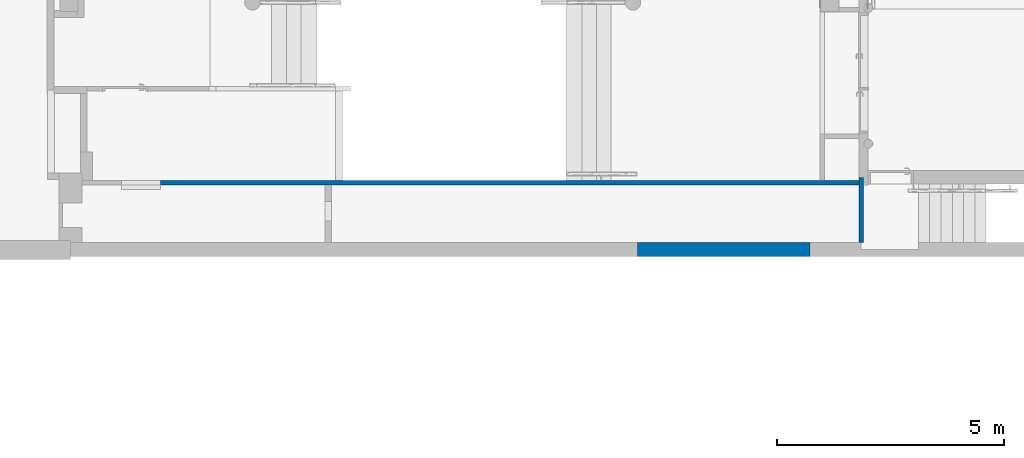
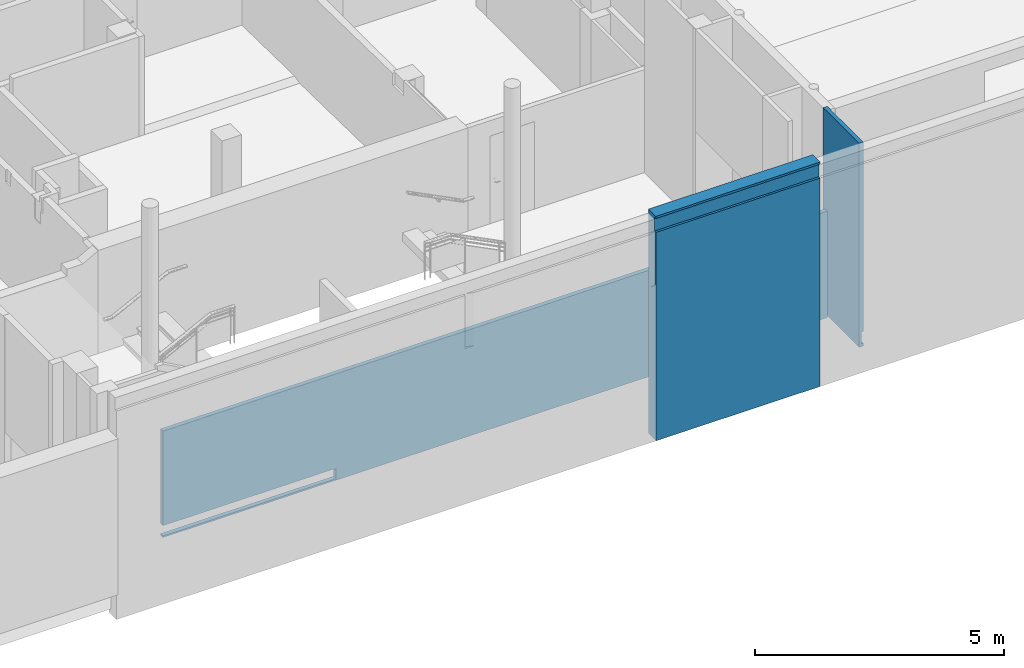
# One storey, part 21 of 39: 3 walls.
"""IFC4 building model written with IfcOpenShell, lengths in metres."""

import ifcopenshell
import ifcopenshell.guid

model = None  # the IFC model being written
_history = None  # IfcOwnerHistory: only IFC2X3 demands one
_inside = {}  # id of a spatial element -> (the spatial element, [elements in it])
_under = {}  # id of a project, library or spatial element -> (it, [spatial elements below it])
_declared = {}  # id of a project -> (the project, [libraries it declares])
_typed = {}  # id of a type object -> (the type object, [elements of that type])
_made_of = {}  # id of a material, layer set ... -> (it, [elements and type objects made of it])


def new_model(schema):
    """Start an empty IFC model of exactly this schema.

    Asked for "IFC4X3", IfcOpenShell would pick the latest addendum, in which some entities
    have other attributes; the version numbers below select the first issue.
    IFC2X3 requires an IfcOwnerHistory on every rooted entity: one is made here for all.
    """
    global model, _history
    if schema == "IFC4X3":
        model = ifcopenshell.file(schema_version=(4, 3, 0, 0))
    else:
        model = ifcopenshell.file(schema=schema)
    _inside.clear()
    _under.clear()
    _declared.clear()
    _typed.clear()
    _made_of.clear()
    _history = None
    if model.schema == "IFC2X3":
        org = make("IfcOrganization", Name="unknown")
        user = make(
            "IfcPersonAndOrganization",
            ThePerson=make("IfcPerson", FamilyName="unknown"),
            TheOrganization=org,
        )
        app = make(
            "IfcApplication",
            ApplicationDeveloper=org,
            Version="unknown",
            ApplicationFullName="unknown",
            ApplicationIdentifier="unknown",
        )
        _history = make(
            "IfcOwnerHistory",
            OwningUser=user,
            OwningApplication=app,
            ChangeAction="ADDED",
            CreationDate=0,
        )
    return model


def make(cls, **values):
    """One entity of the class cls with the attributes given. An attribute that is None is left unset."""
    return model.create_entity(
        cls, **{name: value for name, value in values.items() if value is not None}
    )


def entity(cls, *values):
    """Any entity or typed value of the class cls, its attributes in the order of the schema. None: left unset."""
    e = model.create_entity(cls)
    for i, value in enumerate(values):
        if value is not None:
            e[i] = value
    return e


def rooted(cls, **values):
    """An entity with a GlobalId (a new one), such as an element, a storey or a relation."""
    return make(cls, GlobalId=ifcopenshell.guid.new(), OwnerHistory=_history, **values)


def si_unit(unit_type, name, prefix=None):
    """IfcSIUnit, for example si_unit("LENGTHUNIT", "METRE", prefix="MILLI")."""
    return make("IfcSIUnit", UnitType=unit_type, Prefix=prefix, Name=name)


def converted_unit(unit_type, name, factor, base, dimensions=None, offset=None):
    """IfcConversionBasedUnit, such as the inch: factor (a typed value) times the base unit."""
    return make(
        "IfcConversionBasedUnit"
        if offset is None
        else "IfcConversionBasedUnitWithOffset",
        ConversionOffset=offset,
        Dimensions=None
        if dimensions is None
        else entity("IfcDimensionalExponents", *dimensions),
        UnitType=unit_type,
        Name=name,
        ConversionFactor=make(
            "IfcMeasureWithUnit", ValueComponent=factor, UnitComponent=base
        ),
    )


def derived_unit(unit_type, elements):
    """IfcDerivedUnit: a product of units, each with its exponent."""
    return make(
        "IfcDerivedUnit",
        Elements=[
            make("IfcDerivedUnitElement", Unit=unit, Exponent=power)
            for unit, power in elements
        ],
        UnitType=unit_type,
    )


def assignment(units):
    """IfcUnitAssignment: the units of a project."""
    return None if units is None else make("IfcUnitAssignment", Units=units)


def point(xyz):
    """IfcCartesianPoint."""
    return None if xyz is None else make("IfcCartesianPoint", Coordinates=xyz)


def direction(xyz):
    """IfcDirection."""
    return None if xyz is None else make("IfcDirection", DirectionRatios=xyz)


def frame(location, z_axis=None, x_axis=None):
    """IfcAxis2Placement3D, a coordinate frame: its origin and axes. An axis left out is left unset."""
    return make(
        "IfcAxis2Placement3D",
        Location=point(location),
        Axis=direction(z_axis),
        RefDirection=direction(x_axis),
    )


def origin():
    """The frame at (0, 0, 0) with its axes left unset."""
    return frame((0.0, 0.0, 0.0))


def place(relative_to, where):
    """IfcLocalPlacement: puts the frame where relative to a parent placement (None: the world)."""
    return make(
        "IfcLocalPlacement", PlacementRelTo=relative_to, RelativePlacement=where
    )


def context(
    kind, dimensions, precision=None, world=None, true_north=None, identifier=None
):
    """IfcGeometricRepresentationContext, for example the 3D "Model" context."""
    return make(
        "IfcGeometricRepresentationContext",
        ContextIdentifier=identifier,
        ContextType=kind,
        CoordinateSpaceDimension=dimensions,
        Precision=precision,
        WorldCoordinateSystem=world,
        TrueNorth=true_north,
    )


def subcontext(parent, identifier, kind, view, scale=None):
    """IfcGeometricRepresentationSubContext, for example "Body" below "Model"."""
    return make(
        "IfcGeometricRepresentationSubContext",
        ContextIdentifier=identifier,
        ContextType=kind,
        ParentContext=parent,
        TargetScale=scale,
        TargetView=view,
    )


def project(units=None, contexts=None):
    """IfcProject with its units and contexts."""
    return rooted(
        "IfcProject",
        Name="project",
        RepresentationContexts=contexts,
        UnitsInContext=assignment(units),
    )


def spatial(cls, under=None, at=None, **own):
    """A site, building, storey or space (cls), placed at a placement, below another one or the project."""
    s = rooted(cls, ObjectPlacement=at, **own)
    if under is not None:
        _under.setdefault(under.id(), (under, []))[1].append(s)
    return s


def point_list(points):
    """IfcCartesianPointList2D or 3D."""
    cls = (
        "IfcCartesianPointList2D" if len(points[0]) == 2 else "IfcCartesianPointList3D"
    )
    return make(cls, CoordList=points)


def polygons(points, faces, closed=None, point_numbers=None):
    """IfcPolygonalFaceSet: a face is its outer loop, then its inner loops; points numbered from 1."""
    made = []
    for loops in faces:
        if len(loops) == 1:
            made.append(make("IfcIndexedPolygonalFace", CoordIndex=loops[0]))
        else:
            made.append(
                make(
                    "IfcIndexedPolygonalFaceWithVoids",
                    CoordIndex=loops[0],
                    InnerCoordIndices=loops[1:],
                )
            )
    return make(
        "IfcPolygonalFaceSet",
        Coordinates=point_list(points),
        Closed=closed,
        Faces=made,
        PnIndex=point_numbers,
    )


def shape(context_of_items, identifier, shape_type, items):
    """IfcShapeRepresentation: the items that make up one representation, for example the "Body"."""
    return make(
        "IfcShapeRepresentation",
        ContextOfItems=context_of_items,
        RepresentationIdentifier=identifier,
        RepresentationType=shape_type,
        Items=items,
    )


def material(Name=None, Category=None):
    """IfcMaterial."""
    return make("IfcMaterial", Name=Name, Category=Category)


def layer(
    of_material, thickness, ventilated=None, Name=None, Category=None, Priority=None
):
    """IfcMaterialLayer: one layer of a wall or slab, of a material (None: an air gap)."""
    return make(
        "IfcMaterialLayer",
        Material=of_material,
        LayerThickness=thickness,
        IsVentilated=ventilated,
        Name=Name,
        Category=Category,
        Priority=Priority,
    )


def layer_set(layers, Name=None):
    """IfcMaterialLayerSet."""
    return make("IfcMaterialLayerSet", MaterialLayers=layers, LayerSetName=Name)


def made_of(thing, what):
    """Note that an element or type object is made of a material, layer set ...; save() writes the relation."""
    if what is not None:
        _made_of.setdefault(what.id(), (what, []))[1].append(thing)
    return thing


def type_object(cls, material=None, **own):
    """A type object (cls), such as IfcWallType, which elements share."""
    return made_of(rooted(cls, **own), material)


def element(
    cls,
    number,
    at=None,
    inside=None,
    cuts=None,
    type_object=None,
    material=None,
    context=None,
    identifier="Body",
    shape_type=None,
    held_by="IfcProductDefinitionShape",
    body=None,
    shapes=None,
    **own,
):
    """One element of the class cls, such as IfcWall. Its Tag is "e" and its number.

    at: its placement. inside: the storey or other place that contains it. cuts: it is an
    opening in that element (IfcRelVoidsElement). A single representation is given by context,
    identifier, shape_type and body (its items); several are given by shapes. held_by: the class
    of the entity that holds the representations. save() writes the other relations.
    """
    e = rooted(cls, Tag="e%d" % number, ObjectPlacement=at, **own)
    if body is not None:
        shapes = [shape(context, identifier, shape_type, body)]
    if shapes is not None:
        e.Representation = make(held_by, Representations=shapes)
    if inside is not None:
        _inside.setdefault(inside.id(), (inside, []))[1].append(e)
    if cuts is not None:
        rooted(
            "IfcRelVoidsElement", RelatingBuildingElement=cuts, RelatedOpeningElement=e
        )
    if type_object is not None:
        _typed.setdefault(type_object.id(), (type_object, []))[1].append(e)
    return made_of(e, material)


def aggregate(whole, parts):
    """IfcRelAggregates: a whole, such as a stair, and the parts it consists of."""
    return rooted("IfcRelAggregates", RelatingObject=whole, RelatedObjects=parts)


def save(model, path):
    """Write the relations noted so far, then the file.

    IfcRelAggregates (storeys below a building ...), IfcRelContainedInSpatialStructure (elements
    in a storey), IfcRelDefinesByType, IfcRelAssociatesMaterial and IfcRelDeclares: one each for
    every whole, place, type object, material and project.
    """
    for whole, parts in _under.values():
        aggregate(whole, parts)
    for where, things in _inside.values():
        rooted(
            "IfcRelContainedInSpatialStructure",
            RelatedElements=things,
            RelatingStructure=where,
        )
    for kind, things in _typed.values():
        rooted("IfcRelDefinesByType", RelatedObjects=things, RelatingType=kind)
    for what, things in _made_of.values():
        rooted("IfcRelAssociatesMaterial", RelatedObjects=things, RelatingMaterial=what)
    for by, libraries in _declared.values():
        rooted("IfcRelDeclares", RelatingContext=by, RelatedDefinitions=libraries)
    model.write(path)


model = new_model("IFC4")

# Units and contexts
model_context = context("Model", 3, precision=1e-05, world=origin(), true_north=direction((6.12303176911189e-17, 1.0)))
body_context = subcontext(model_context, "Body", "Model", "MODEL_VIEW")
ifc_project = project(units=[si_unit("LENGTHUNIT", "METRE"), si_unit("AREAUNIT", "SQUARE_METRE"), si_unit("VOLUMEUNIT", "CUBIC_METRE"), converted_unit("PLANEANGLEUNIT", "DEGREE", entity("IfcRatioMeasure", 0.0174532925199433), si_unit("PLANEANGLEUNIT", "RADIAN"), dimensions=[0, 0, 0, 0, 0, 0, 0]), si_unit("MASSUNIT", "GRAM", prefix="KILO"), derived_unit("MASSDENSITYUNIT", [(si_unit("MASSUNIT", "GRAM", prefix="KILO"), 1), (si_unit("LENGTHUNIT", "METRE"), -3)]), derived_unit("MOMENTOFINERTIAUNIT", [(si_unit("LENGTHUNIT", "METRE"), 4)]), si_unit("TIMEUNIT", "SECOND"), si_unit("FREQUENCYUNIT", "HERTZ"), si_unit("THERMODYNAMICTEMPERATUREUNIT", "DEGREE_CELSIUS"), derived_unit("THERMALTRANSMITTANCEUNIT", [(si_unit("MASSUNIT", "GRAM", prefix="KILO"), 1), (si_unit("THERMODYNAMICTEMPERATUREUNIT", "KELVIN"), -1), (si_unit("TIMEUNIT", "SECOND"), -3)]), derived_unit("VOLUMETRICFLOWRATEUNIT", [(si_unit("LENGTHUNIT", "METRE"), 3), (si_unit("TIMEUNIT", "SECOND"), -1)]), si_unit("ELECTRICCURRENTUNIT", "AMPERE"), si_unit("ELECTRICVOLTAGEUNIT", "VOLT"), si_unit("POWERUNIT", "WATT"), si_unit("FORCEUNIT", "NEWTON", prefix="KILO"), si_unit("ILLUMINANCEUNIT", "LUX"), si_unit("LUMINOUSFLUXUNIT", "LUMEN"), si_unit("LUMINOUSINTENSITYUNIT", "CANDELA"), derived_unit("USERDEFINED", [(si_unit("MASSUNIT", "GRAM", prefix="KILO"), -1), (si_unit("LENGTHUNIT", "METRE"), -2), (si_unit("TIMEUNIT", "SECOND"), 3), (si_unit("LUMINOUSFLUXUNIT", "LUMEN"), 1)]), derived_unit("LINEARVELOCITYUNIT", [(si_unit("LENGTHUNIT", "METRE"), 1), (si_unit("TIMEUNIT", "SECOND"), -1)]), si_unit("PRESSUREUNIT", "PASCAL"), derived_unit("USERDEFINED", [(si_unit("LENGTHUNIT", "METRE"), -2), (si_unit("MASSUNIT", "GRAM", prefix="KILO"), 1), (si_unit("TIMEUNIT", "SECOND"), -2)]), derived_unit("LINEARFORCEUNIT", [(si_unit("MASSUNIT", "GRAM", prefix="KILO"), 1), (si_unit("LENGTHUNIT", "METRE"), 1), (si_unit("TIMEUNIT", "SECOND"), -2), (si_unit("LENGTHUNIT", "METRE"), -1)]), derived_unit("PLANARFORCEUNIT", [(si_unit("MASSUNIT", "GRAM", prefix="KILO"), 1), (si_unit("LENGTHUNIT", "METRE"), 1), (si_unit("TIMEUNIT", "SECOND"), -2), (si_unit("LENGTHUNIT", "METRE"), -2)])], contexts=[model_context])

# Site, building, storey
site_placement = place(None, origin())
site = spatial("IfcSite", under=ifc_project, at=site_placement, Name="Default", CompositionType="ELEMENT")
building_placement = place(site_placement, origin())
building = spatial("IfcBuilding", under=site, at=building_placement, Name="HOTEL CONSULAIRE BOULOGNE SUR MER", CompositionType="ELEMENT")
storey_placement = place(building_placement, frame((0.0, 0.0, -5.02343668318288)))
storey = spatial("IfcBuildingStorey", under=building, at=storey_placement, Name="SS3", CompositionType="ELEMENT", Elevation=-5.02343668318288)

# Walls
ifc_material = material(Name="Mur par défaut", Category="Divers")
ifc_layer_1 = layer(ifc_material, 0.1, Name="Mur par défaut", Category="Divers")
ifc_layer_set_1 = layer_set([ifc_layer_1], Name="Mur de base:Générique - Int. 100 mm")
wall_type_1 = type_object("IfcWallType", Name="Mur de base:Générique - Int. 100 mm", PredefinedType="NOTDEFINED", material=ifc_layer_set_1)
wall_1_placement = place(storey_placement, frame((-3.25527841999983, -27.996273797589, -0.29)))
element("IfcWall", 1, at=wall_1_placement, inside=storey, type_object=wall_type_1, material=ifc_layer_set_1, Name="Mur de base:Générique - Int. 100 mm", ObjectType="Mur de base:Générique - Int. 100 mm", PredefinedType="NOTDEFINED", context=body_context, shape_type="Tessellation", body=[
    polygons([(2.59627302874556e-16, -0.0499999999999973, 2.60999999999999), (6.21083107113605e-16, 0.00600000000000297, 2.60999999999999), (4.79672009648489e-16, 0.0500000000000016, 2.60999999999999), (4.79672009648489e-16, 0.0500000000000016, 0.807), (4.79672009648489e-16, 0.0500000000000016, 0.29), (2.59627302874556e-16, -0.0499999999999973, 0.29), (2.59627302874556e-16, -0.0499999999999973, 0.807000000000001), (2.59627302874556e-16, -0.0499999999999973, 0.0), (15.4145052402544, -0.0500000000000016, 0.0), (15.4145052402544, -0.0500000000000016, 0.0400000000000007), (15.4145052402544, -0.0500000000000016, 0.29), (15.4145052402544, -0.0500000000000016, 2.60999999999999), (3.62495411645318, -0.0500000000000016, 0.29), (3.77495411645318, -0.0500000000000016, 0.29), (4.01600000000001, -0.0499999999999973, 0.29), (4.01600000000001, -0.0499999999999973, 0.0400000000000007), (2.59627302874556e-16, -0.0499999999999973, 0.0400000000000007), (15.4145052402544, 0.0499999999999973, 0.0), (4.79672009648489e-16, 0.0500000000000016, 0.0), (4.79672009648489e-16, 0.0500000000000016, 0.0400000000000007), (4.01600000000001, 0.0500000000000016, 0.0400000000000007), (4.01600000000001, 0.0500000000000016, 0.29), (3.86600000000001, 0.0499999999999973, 0.29), (14.5575052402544, 0.0499999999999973, 2.60999999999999), (14.6575052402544, 0.0499999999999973, 2.60999999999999), (15.4145052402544, 0.0499999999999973, 2.60999999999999)], [[[7, 1, 2, 3, 4, 5, 6]], [[8, 17, 20, 19]], [[15, 22, 21, 16]], [[8, 9, 10, 11, 12, 1, 7, 6, 13, 14, 15, 16, 17]], [[24, 25, 26, 18, 19, 20, 21, 22, 23, 5, 4, 3]], [[9, 8, 19, 18]], [[23, 22, 15, 14, 13, 6, 5]], [[2, 1, 12, 26, 25, 24, 3]], [[16, 21, 20, 17]], [[11, 10, 9, 18, 26, 12]]], closed=True),
])
wall_2_placement = place(storey_placement, frame((12.2092268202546, -29.3180671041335, -0.249999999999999), z_axis=(0.0, 0.0, 1.0), x_axis=(0.0, 1.0, 0.0)))
element("IfcWall", 2, at=wall_2_placement, inside=storey, type_object=wall_type_1, material=ifc_layer_set_1, Name="Mur de base:Générique - Int. 100 mm", ObjectType="Mur de base:Générique - Int. 100 mm", PredefinedType="NOTDEFINED", context=body_context, shape_type="Tessellation", body=[
    polygons([(0.0, -0.0500000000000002, 0.0), (1.32179330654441, -0.0500000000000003, 0.0), (1.4442439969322, -0.0500000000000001, 0.0), (1.4442439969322, -0.0500000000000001, 5.00343668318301), (1.32179330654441, -0.0500000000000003, 5.00343668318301), (1.29424399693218, -0.0500000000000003, 5.00343668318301), (1.29424399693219, -0.0500000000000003, 4.39343668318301), (0.914243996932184, -0.0500000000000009, 4.39343668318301), (0.914243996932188, -0.0500000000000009, 5.00343668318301), (0.0, -0.0500000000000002, 5.00343668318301), (0.0, -0.0500000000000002, 0.359999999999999), (1.2942439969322, -0.0500000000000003, 0.359999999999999), (1.2942439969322, -0.0500000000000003, 0.0699999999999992), (0.0, -0.0500000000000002, 0.0699999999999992), (1.4442439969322, 0.0499999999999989, 0.0), (1.27179330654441, 0.0499999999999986, 0.0), (0.0, 0.0499999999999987, 0.0), (0.0, 0.0499999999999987, 0.249999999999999), (0.0, 0.0499999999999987, 5.00343668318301), (1.27179330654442, 0.0499999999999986, 5.00343668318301), (1.40179330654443, 0.0499999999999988, 5.00343668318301), (1.4442439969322, 0.0499999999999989, 5.00343668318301), (0.914243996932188, -0.0377168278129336, 5.00343668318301), (1.29424399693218, -0.037716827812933, 5.00343668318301), (0.0, -7.21268075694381e-16, 0.0699999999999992), (0.0, -7.21268075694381e-16, 0.359999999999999), (1.2942439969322, -8.47432109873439e-16, 0.0699999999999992), (1.2942439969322, -8.47432109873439e-16, 0.359999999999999), (1.29424399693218, -0.0377168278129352, 4.39343668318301), (0.914243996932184, -0.0377168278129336, 4.39343668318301)], [[[8, 9, 10, 11, 12, 13, 14, 1, 2, 3, 4, 5, 6, 7]], [[28, 26, 25, 27]], [[23, 30, 29, 24]], [[21, 22, 15, 16, 17, 18, 19, 20]], [[2, 1, 17, 16, 15, 3]], [[26, 28, 12, 11]], [[24, 6, 5, 4, 22, 21, 20, 19, 10, 9, 23]], [[13, 27, 25, 14]], [[30, 8, 7, 29]], [[26, 11, 10, 19, 18, 17, 1, 14, 25]], [[12, 28, 27, 13]], [[29, 7, 6, 24]], [[4, 3, 15, 22]], [[23, 9, 8, 30]]], closed=True),
])
ifc_layer_2 = layer(ifc_material, 0.3, Name="Mur par défaut", Category="Divers")
ifc_layer_set_2 = layer_set([ifc_layer_2], Name="Mur de base:Générique - Ext. 300 mm")
wall_type_2 = type_object("IfcWallType", Name="Mur de base:Générique - Ext. 300 mm", PredefinedType="NOTDEFINED", material=ifc_layer_set_2)
wall_3_placement = place(storey_placement, frame((7.272137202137, -29.4680671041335, -0.649999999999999)))
element("IfcWall", 3, at=wall_3_placement, inside=storey, type_object=wall_type_2, material=ifc_layer_set_2, Name="Mur de base:Générique - Ext. 300 mm", ObjectType="Mur de base:Générique - Ext. 300 mm", PredefinedType="NOTDEFINED", context=body_context, shape_type="Tessellation", body=[
    polygons([(3.81008961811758, -0.150000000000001, 5.50343668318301), (1.35590975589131e-15, -0.150000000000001, 5.50343668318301), (1.35590975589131e-15, -0.150000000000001, 5.4534366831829), (3.81008961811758, -0.150000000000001, 5.4534366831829), (2.73042626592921e-16, -0.150000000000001, 0.0), (3.81008961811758, -0.150000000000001, 0.0), (3.81008961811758, -0.150000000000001, 5.1134366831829), (1.35590975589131e-15, -0.150000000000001, 5.1134366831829), (1.35590975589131e-15, -0.150000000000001, 3.81497109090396), (3.81008961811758, 0.150000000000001, 0.0), (1.17465561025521e-15, 0.150000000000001, 0.0), (1.17465561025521e-15, 0.150000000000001, 5.40343668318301), (9.17884809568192e-17, 0.150000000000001, 5.50343668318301), (3.81008961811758, 0.150000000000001, 5.50343668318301), (3.81008961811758, 0.150000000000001, 5.40343668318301), (3.81008961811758, -0.0960000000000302, 5.4534366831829), (3.81008961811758, -0.0960000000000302, 5.40343668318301), (3.81008961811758, -0.0960000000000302, 5.1134366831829), (1.17906714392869e-15, -0.108031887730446, 5.1134366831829), (1.12836792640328e-15, -0.0960000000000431, 5.1134366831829), (1.12836792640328e-15, -0.0960000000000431, 5.40343668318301), (1.12836792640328e-15, -0.0960000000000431, 5.4534366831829)], [[[2, 3, 4, 1]], [[9, 5, 6, 7, 8]], [[20, 18, 17, 16, 22, 21]], [[15, 10, 11, 12, 13, 14]], [[6, 5, 11, 10]], [[22, 16, 4, 3]], [[1, 4, 16, 17, 18, 7, 6, 10, 15, 14]], [[2, 1, 14, 13]], [[8, 7, 18, 20, 19]], [[11, 5, 9, 8, 19, 20, 21, 22, 3, 2, 13, 12]]], closed=True),
])

save(model, "model.ifc")
